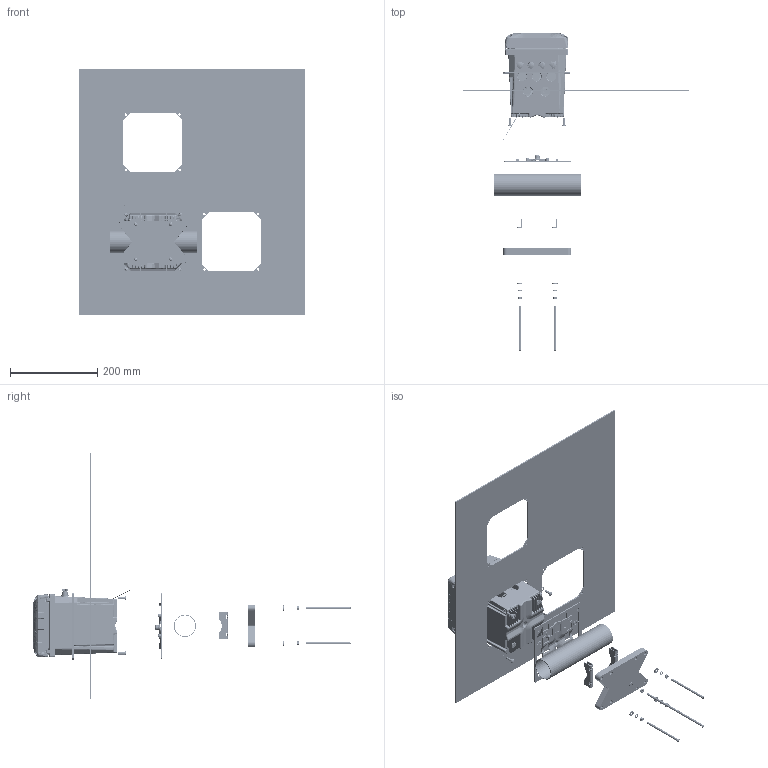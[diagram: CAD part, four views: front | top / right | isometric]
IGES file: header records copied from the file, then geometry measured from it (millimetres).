
Start section: SolidWorks IGES file using analytic representation for surfaces
Global section: file name: C:\Users\aloerke\Desktop\Arbeits-Ordner\LXV524\LXV524.TD.10000__001.IGS; native system: SolidWorks 2017; preprocessor: SolidWorks 2017; author: aloerke; date: 180405.090558; units: millimetre
Bounding box: 515.4 x 726.47 x 563.4 mm (x, y, z)
Surface area: 1155096.9 mm2 (no closed solid volume)
Topology: 0 solids, 0 shells, 17783 faces, 150625 edges, 150305 vertices
Faces by surface type: bspline 11425, revolution 6358
